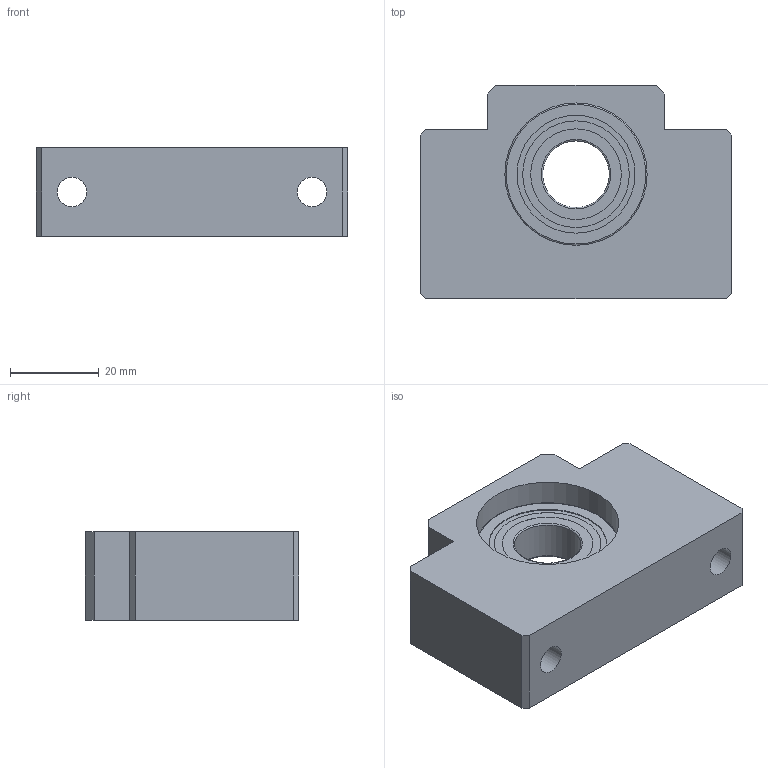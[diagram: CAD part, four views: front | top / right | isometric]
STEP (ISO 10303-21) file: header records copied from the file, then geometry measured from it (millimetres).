
FILE_DESCRIPTION(/* description */ ('STEP AP214'),/* implementation_level */ '2;1');
FILE_NAME(/* name */ 'BF15',/* time_stamp */ '2026-09-17T13:12:37+02:00',/* author */ ('License CC BY-ND 4.0'),/* organization */ ('CADENAS'),/* preprocessor_version */ 'ST-DEVELOPER v20',/* originating_system */ 'PARTsolutions',/* authorisation */ ' ');
FILE_SCHEMA (('AUTOMOTIVE_DESIGN {1 0 10303 214 3 1 1}'));
Length unit declared in the file: millimetre
Products named in the file (3): BF15; BF 15 Part1; BF 15 Part2
Assembly tree (2 placements, depth 2):
  BF15
    BF 15 Part1
    BF 15 Part2
Bounding box: 70 x 48 x 20 mm (x, y, z)
Volume: 47184.1 mm3; surface area: 15352.9 mm2
Topology: 2 solids, 2 shells, 43 faces, 90 edges, 59 vertices
Faces by surface type: plane 26, cylinder 13, torus 4
Full cylindrical faces by diameter (mm): 6.6 x2, 11 x2, 15 x1, 20.4 x2, 24 x2, 26.5 x2, 32 x2
Entity records: 1147 total; most frequent: DIRECTION 194, CARTESIAN_POINT 176, ORIENTED_EDGE 144, EDGE_LOOP 76, FACE_BOUND 76, AXIS2_PLACEMENT_3D 76, EDGE_CURVE 72, VERTEX_POINT 58
